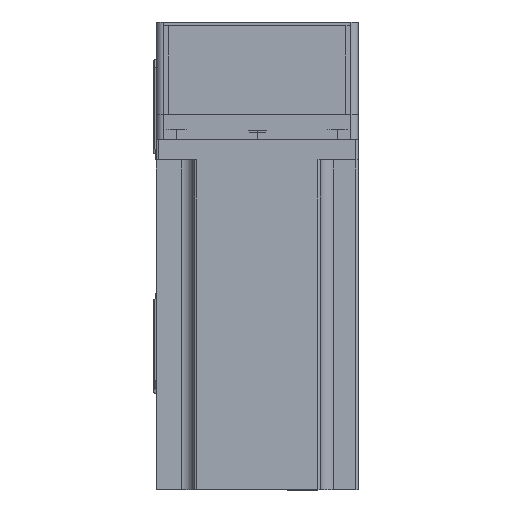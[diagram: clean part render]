
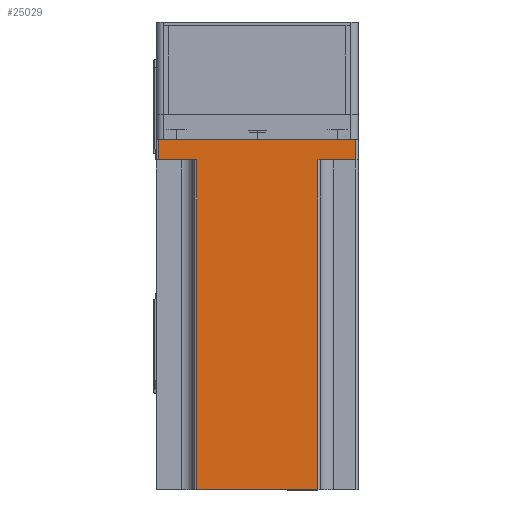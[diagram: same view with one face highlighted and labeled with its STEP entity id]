
A CAD part, top view. The second image highlights one B-rep face of the part: STEP entity #25029.
In plain terms, the highlighted planar face has unit normal (0, 0, 1) as drawn and (0, 1, 0) by its records, which use the part's own axes.
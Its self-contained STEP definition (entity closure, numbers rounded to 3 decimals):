
#181 = DIRECTION ( 'NONE',  ( 0., 0., -1. ) ) ;
#1316 = DIRECTION ( 'NONE',  ( 1., 0., 0. ) ) ;
#1900 = DIRECTION ( 'NONE',  ( -1., 0., 0. ) ) ;
#3906 = CARTESIAN_POINT ( 'NONE',  ( -24., 40., 138.3 ) ) ;
#4036 = VERTEX_POINT ( 'NONE', #46622 ) ;
#4417 = VECTOR ( 'NONE', #181, 1000. ) ;
#4598 = CARTESIAN_POINT ( 'NONE',  ( 24., 40., 138.3 ) ) ;
#5263 = CARTESIAN_POINT ( 'NONE',  ( 39., 40., 0. ) ) ;
#5450 = EDGE_CURVE ( 'NONE', #34500, #11478, #25176, .T. ) ;
#7102 = CARTESIAN_POINT ( 'NONE',  ( 39., 40., 138.3 ) ) ;
#8788 = EDGE_CURVE ( 'NONE', #4036, #25848, #37122, .T. ) ;
#8953 = ORIENTED_EDGE ( 'NONE', *, *, #23247, .F. ) ;
#8993 = LINE ( 'NONE', #16974, #49905 ) ;
#9419 = EDGE_CURVE ( 'NONE', #40929, #43331, #24530, .T. ) ;
#9475 = ORIENTED_EDGE ( 'NONE', *, *, #24601, .T. ) ;
#11478 = VERTEX_POINT ( 'NONE', #5263 ) ;
#12731 = VECTOR ( 'NONE', #30724, 1000. ) ;
#12853 = CARTESIAN_POINT ( 'NONE',  ( 40., 40., 0. ) ) ;
#13226 = VECTOR ( 'NONE', #1900, 1000. ) ;
#13272 = FACE_OUTER_BOUND ( 'NONE', #23453, .T. ) ;
#13581 = CARTESIAN_POINT ( 'NONE',  ( 40., 40., 138.3 ) ) ;
#15265 = VECTOR ( 'NONE', #44541, 1000. ) ;
#15268 = ORIENTED_EDGE ( 'NONE', *, *, #5450, .T. ) ;
#15924 = VERTEX_POINT ( 'NONE', #4598 ) ;
#16412 = CARTESIAN_POINT ( 'NONE',  ( 40., 40., 138.3 ) ) ;
#16974 = CARTESIAN_POINT ( 'NONE',  ( -25., 40., 8. ) ) ;
#20193 = VERTEX_POINT ( 'NONE', #30566 ) ;
#20409 = DIRECTION ( 'NONE',  ( 1., 0., 0. ) ) ;
#23247 = EDGE_CURVE ( 'NONE', #34500, #20193, #28451, .T. ) ;
#23453 = EDGE_LOOP ( 'NONE', ( #9475, #24597, #31011, #33545, #8953, #15268, #48214, #38778 ) ) ;
#23792 = LINE ( 'NONE', #13581, #13226 ) ;
#23918 = EDGE_CURVE ( 'NONE', #11478, #4036, #45654, .T. ) ;
#24247 = PLANE ( 'NONE',  #26321 ) ;
#24530 = LINE ( 'NONE', #46497, #12731 ) ;
#24597 = ORIENTED_EDGE ( 'NONE', *, *, #9419, .T. ) ;
#24601 = EDGE_CURVE ( 'NONE', #25848, #40929, #8993, .T. ) ;
#25029 = ADVANCED_FACE ( 'NONE', ( #13272 ), #24247, .F. ) ;
#25176 = LINE ( 'NONE', #7102, #43747 ) ;
#25723 = EDGE_CURVE ( 'NONE', #15924, #43331, #23792, .T. ) ;
#25848 = VERTEX_POINT ( 'NONE', #38194 ) ;
#26321 = AXIS2_PLACEMENT_3D ( 'NONE', #16412, #44138, #20409 ) ;
#26554 = VECTOR ( 'NONE', #49164, 1000. ) ;
#27476 = CARTESIAN_POINT ( 'NONE',  ( 24., 40., 138.3 ) ) ;
#28451 = LINE ( 'NONE', #35637, #49515 ) ;
#29064 = CARTESIAN_POINT ( 'NONE',  ( 39., 40., 8. ) ) ;
#30566 = CARTESIAN_POINT ( 'NONE',  ( 24., 40., 8. ) ) ;
#30724 = DIRECTION ( 'NONE',  ( 0., 0., 1. ) ) ;
#30782 = DIRECTION ( 'NONE',  ( 0., 0., -1. ) ) ;
#31011 = ORIENTED_EDGE ( 'NONE', *, *, #25723, .F. ) ;
#33545 = ORIENTED_EDGE ( 'NONE', *, *, #37750, .T. ) ;
#34500 = VERTEX_POINT ( 'NONE', #29064 ) ;
#35637 = CARTESIAN_POINT ( 'NONE',  ( 25., 40., 8. ) ) ;
#35987 = LINE ( 'NONE', #27476, #4417 ) ;
#36680 = CARTESIAN_POINT ( 'NONE',  ( -24., 40., 8. ) ) ;
#37122 = LINE ( 'NONE', #49340, #26554 ) ;
#37750 = EDGE_CURVE ( 'NONE', #15924, #20193, #35987, .T. ) ;
#38194 = CARTESIAN_POINT ( 'NONE',  ( -39., 40., 8. ) ) ;
#38778 = ORIENTED_EDGE ( 'NONE', *, *, #8788, .T. ) ;
#39468 = DIRECTION ( 'NONE',  ( -1., 0., 0. ) ) ;
#40929 = VERTEX_POINT ( 'NONE', #36680 ) ;
#43331 = VERTEX_POINT ( 'NONE', #3906 ) ;
#43747 = VECTOR ( 'NONE', #30782, 1000. ) ;
#44138 = DIRECTION ( 'NONE',  ( 0., -1., 0. ) ) ;
#44541 = DIRECTION ( 'NONE',  ( -1., 0., 0. ) ) ;
#45654 = LINE ( 'NONE', #12853, #15265 ) ;
#46497 = CARTESIAN_POINT ( 'NONE',  ( -24., 40., 138.3 ) ) ;
#46622 = CARTESIAN_POINT ( 'NONE',  ( -39., 40., 0. ) ) ;
#48214 = ORIENTED_EDGE ( 'NONE', *, *, #23918, .T. ) ;
#49164 = DIRECTION ( 'NONE',  ( 0., 0., 1. ) ) ;
#49340 = CARTESIAN_POINT ( 'NONE',  ( -39., 40., 138.3 ) ) ;
#49515 = VECTOR ( 'NONE', #39468, 1000. ) ;
#49905 = VECTOR ( 'NONE', #1316, 1000. ) ;
